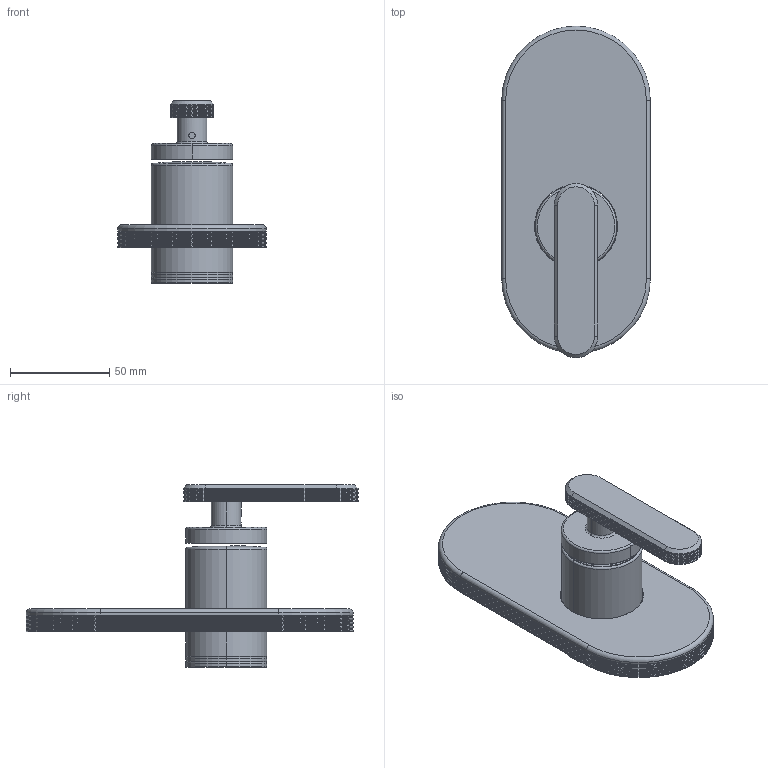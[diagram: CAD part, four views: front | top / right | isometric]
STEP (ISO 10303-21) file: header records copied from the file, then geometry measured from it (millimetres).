
FILE_DESCRIPTION((''),'2;1');
FILE_NAME('F1309E1_ASM','2025-05-05T14:45:16',('ivanv'),(''),'CREO PARAMETRIC BY PTC INC, 2024103','CREO PARAMETRIC BY PTC INC, 2024103','');
FILE_SCHEMA(('CONFIG_CONTROL_DESIGN'));
Length unit declared in the file: millimetre
Products named in the file (13): 1751LL; 1149Z; R1149_ASM; AKARTPK35N-LL_ASM; RKARTPK35N-00_ASM; 1145-01Z_L; R1145-01_ASM; 1119Z; 1120Z; 7715; 1119ZMON_ASM; R1119_ASM; F1309E1_ASM
Assembly tree (12 placements, depth 5):
  F1309E1_ASM
    RKARTPK35N-00_ASM
      AKARTPK35N-LL_ASM
        1751LL
        R1149_ASM
          1149Z
    R1145-01_ASM
      1145-01Z_L
    R1119_ASM
      1119ZMON_ASM
        1119Z
        1120Z
        7715
Bounding box: 75 x 167.5 x 92 mm (x, y, z)
Volume: 69818.4 mm3; surface area: 59988 mm2
Topology: 6 solids, 6 shells, 1095 faces, 2713 edges, 1694 vertices
Faces by surface type: plane 630, cylinder 140, extrusion 114, torus 102, cone 68, sphere 27, bspline 14
Entity records: 34394 total; most frequent: CARTESIAN_POINT 8122, ORIENTED_EDGE 5426, DIRECTION 5305, EDGE_CURVE 2713, VECTOR 1815, AXIS2_PLACEMENT_3D 1745, LINE 1701, VERTEX_POINT 1694
